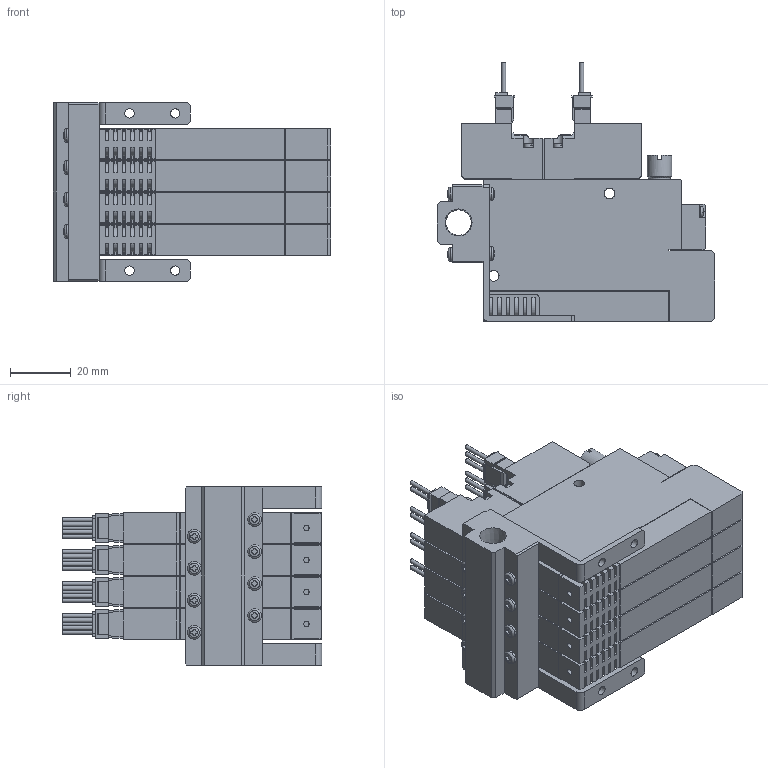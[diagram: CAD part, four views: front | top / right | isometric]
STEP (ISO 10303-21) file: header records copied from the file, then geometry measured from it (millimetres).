
FILE_DESCRIPTION(('STEP AP203'),'1');
FILE_NAME('5WS404_3D.stp','2024-09-04T13:55:34',(' '),(' '),'Spatial InterOp 3D',' ',' ');
FILE_SCHEMA(('CONFIG_CONTROL_DESIGN'));
Length unit declared in the file: millimetre
Products named in the file (5): BSC1M※※ZZ※5WS404; Solenoid valve W; Pressure Sensor ZZ; Unit-S; BaseMS40R
Assembly tree (13 placements, depth 2):
  BSC1M※※ZZ※5WS404
    Solenoid valve W  x4
    Pressure Sensor ZZ  x4
    Unit-S  x4
    BaseMS40R
Bounding box: 91 x 85.05 x 58.5 mm (x, y, z)
Volume: 184387.4 mm3; surface area: 76932.8 mm2
Topology: 13 solids, 13 shells, 1843 faces, 5039 edges, 3342 vertices
Faces by surface type: plane 1350, cylinder 431, cone 22, sphere 20, torus 20
Full cylindrical faces by diameter (mm): 1.4 x20, 1.8 x4, 2.5 x8, 3 x20, 3.5 x24, 4 x4, 4.134 x8, 4.5 x12, 5.5 x4, 7 x4, 7.7 x4, 8 x4, 8.422 x1
Entity records: 19992 total; most frequent: CARTESIAN_POINT 4341, DIRECTION 3118, ORIENTED_EDGE 3118, EDGE_CURVE 1559, LINE 1110, VECTOR 1110, VERTEX_POINT 1079, AXIS2_PLACEMENT_3D 1004
